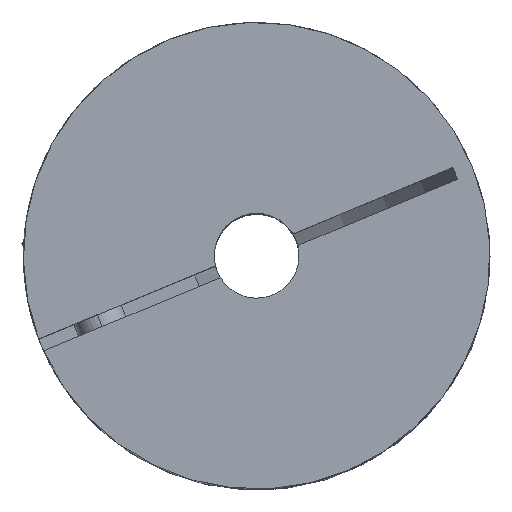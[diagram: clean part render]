
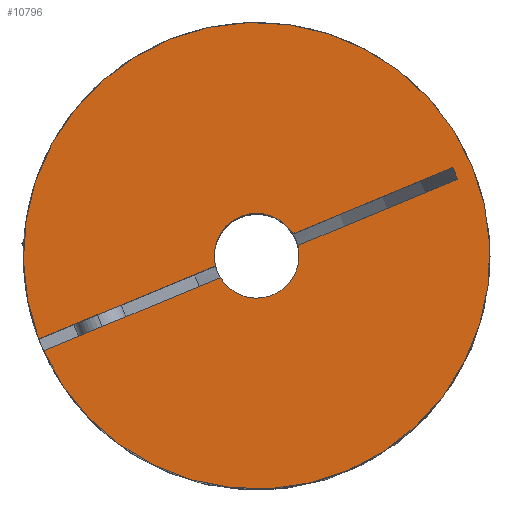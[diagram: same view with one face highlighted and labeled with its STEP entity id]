
A CAD part, top view. The second image highlights one B-rep face of the part: STEP entity #10796.
In plain terms, the highlighted planar face has unit normal (0, 0, 1).
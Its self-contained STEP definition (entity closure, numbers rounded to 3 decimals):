
#84 = CARTESIAN_POINT ( 'NONE',  ( 43.791, 52.683, 118.66 ) ) ;
#229 = DIRECTION ( 'NONE',  ( 0.924, 0.383, 0. ) ) ;
#254 = EDGE_CURVE ( 'NONE', #10160, #9708, #286, .T. ) ;
#286 = LINE ( 'NONE', #6206, #2314 ) ;
#345 = DIRECTION ( 'NONE',  ( 0., 0., -1. ) ) ;
#382 = DIRECTION ( 'NONE',  ( -0.924, -0.383, 0. ) ) ;
#570 = CIRCLE ( 'NONE', #2437, 27.5 ) ;
#643 = VERTEX_POINT ( 'NONE', #4384 ) ;
#688 = ORIENTED_EDGE ( 'NONE', *, *, #3800, .T. ) ;
#784 = AXIS2_PLACEMENT_3D ( 'NONE', #9615, #4350, #10478 ) ;
#965 = DIRECTION ( 'NONE',  ( -0.924, -0.383, 0. ) ) ;
#1015 = EDGE_CURVE ( 'NONE', #5916, #9236, #570, .T. ) ;
#1019 = CARTESIAN_POINT ( 'NONE',  ( 69.198, 63.207, 118.66 ) ) ;
#1269 = EDGE_LOOP ( 'NONE', ( #3670, #8628, #3676, #6337, #4506, #688, #3540, #4663, #1778 ) ) ;
#1384 = LINE ( 'NONE', #1609, #3720 ) ;
#1609 = CARTESIAN_POINT ( 'NONE',  ( 43.504, 53.376, 118.66 ) ) ;
#1778 = ORIENTED_EDGE ( 'NONE', *, *, #6546, .T. ) ;
#2261 = EDGE_CURVE ( 'NONE', #10856, #643, #6480, .T. ) ;
#2314 = VECTOR ( 'NONE', #4790, 1000. ) ;
#2437 = AXIS2_PLACEMENT_3D ( 'NONE', #10891, #345, #382 ) ;
#2488 = LINE ( 'NONE', #5639, #4562 ) ;
#3294 = EDGE_CURVE ( 'NONE', #10337, #9708, #7201, .T. ) ;
#3352 = CIRCLE ( 'NONE', #9830, 27.5 ) ;
#3536 = EDGE_CURVE ( 'NONE', #9463, #8814, #2488, .T. ) ;
#3540 = ORIENTED_EDGE ( 'NONE', *, *, #254, .T. ) ;
#3670 = ORIENTED_EDGE ( 'NONE', *, *, #3536, .F. ) ;
#3676 = ORIENTED_EDGE ( 'NONE', *, *, #1015, .F. ) ;
#3720 = VECTOR ( 'NONE', #6890, 1000. ) ;
#3753 = AXIS2_PLACEMENT_3D ( 'NONE', #84, #6250, #965 ) ;
#3800 = EDGE_CURVE ( 'NONE', #643, #10160, #1384, .T. ) ;
#3975 = FACE_OUTER_BOUND ( 'NONE', #1269, .T. ) ;
#4318 = CARTESIAN_POINT ( 'NONE',  ( 43.791, 52.683, 118.66 ) ) ;
#4350 = DIRECTION ( 'NONE',  ( 0., 0., -1. ) ) ;
#4384 = CARTESIAN_POINT ( 'NONE',  ( 48.071, 55.267, 118.66 ) ) ;
#4496 = CARTESIAN_POINT ( 'NONE',  ( 43.504, 53.376, 118.66 ) ) ;
#4506 = ORIENTED_EDGE ( 'NONE', *, *, #2261, .T. ) ;
#4562 = VECTOR ( 'NONE', #4779, 1000. ) ;
#4582 = CARTESIAN_POINT ( 'NONE',  ( 43.791, 52.683, 118.66 ) ) ;
#4622 = CARTESIAN_POINT ( 'NONE',  ( 38.937, 51.484, 118.66 ) ) ;
#4663 = ORIENTED_EDGE ( 'NONE', *, *, #3294, .F. ) ;
#4779 = DIRECTION ( 'NONE',  ( 0.924, 0.383, 0. ) ) ;
#4790 = DIRECTION ( 'NONE',  ( 0.383, -0.924, 0. ) ) ;
#4821 = VECTOR ( 'NONE', #229, 1000. ) ;
#5216 = DIRECTION ( 'NONE',  ( -0.924, -0.383, 0. ) ) ;
#5359 = PLANE ( 'NONE',  #5608 ) ;
#5406 = DIRECTION ( 'NONE',  ( 0.924, 0.383, 0. ) ) ;
#5441 = CARTESIAN_POINT ( 'NONE',  ( 18.107, 42.856, 118.66 ) ) ;
#5478 = DIRECTION ( 'NONE',  ( -0.924, -0.383, 0. ) ) ;
#5582 = CARTESIAN_POINT ( 'NONE',  ( 39.511, 50.098, 118.66 ) ) ;
#5608 = AXIS2_PLACEMENT_3D ( 'NONE', #4582, #10697, #5478 ) ;
#5639 = CARTESIAN_POINT ( 'NONE',  ( 44.078, 51.99, 118.66 ) ) ;
#5864 = EDGE_CURVE ( 'NONE', #5916, #10856, #8851, .T. ) ;
#5916 = VERTEX_POINT ( 'NONE', #5441 ) ;
#6206 = CARTESIAN_POINT ( 'NONE',  ( 67.492, 61.688, 118.66 ) ) ;
#6250 = DIRECTION ( 'NONE',  ( 0., 0., -1. ) ) ;
#6337 = ORIENTED_EDGE ( 'NONE', *, *, #5864, .T. ) ;
#6480 = CIRCLE ( 'NONE', #784, 5. ) ;
#6546 = EDGE_CURVE ( 'NONE', #10337, #8814, #8882, .T. ) ;
#6890 = DIRECTION ( 'NONE',  ( 0.924, 0.383, 0. ) ) ;
#7193 = CARTESIAN_POINT ( 'NONE',  ( 44.078, 51.99, 118.66 ) ) ;
#7201 = LINE ( 'NONE', #7193, #4821 ) ;
#7843 = CARTESIAN_POINT ( 'NONE',  ( 48.645, 53.882, 118.66 ) ) ;
#8337 = VECTOR ( 'NONE', #5406, 1000. ) ;
#8357 = CARTESIAN_POINT ( 'NONE',  ( 18.681, 41.47, 118.66 ) ) ;
#8628 = ORIENTED_EDGE ( 'NONE', *, *, #9063, .F. ) ;
#8814 = VERTEX_POINT ( 'NONE', #5582 ) ;
#8851 = LINE ( 'NONE', #4496, #8337 ) ;
#8882 = CIRCLE ( 'NONE', #3753, 5. ) ;
#9063 = EDGE_CURVE ( 'NONE', #9236, #9463, #3352, .T. ) ;
#9236 = VERTEX_POINT ( 'NONE', #1019 ) ;
#9256 = CARTESIAN_POINT ( 'NONE',  ( 66.918, 63.074, 118.66 ) ) ;
#9463 = VERTEX_POINT ( 'NONE', #8357 ) ;
#9615 = CARTESIAN_POINT ( 'NONE',  ( 43.791, 52.683, 118.66 ) ) ;
#9708 = VERTEX_POINT ( 'NONE', #10307 ) ;
#9830 = AXIS2_PLACEMENT_3D ( 'NONE', #4318, #10453, #5216 ) ;
#10160 = VERTEX_POINT ( 'NONE', #9256 ) ;
#10307 = CARTESIAN_POINT ( 'NONE',  ( 67.492, 61.688, 118.66 ) ) ;
#10337 = VERTEX_POINT ( 'NONE', #7843 ) ;
#10453 = DIRECTION ( 'NONE',  ( 0., 0., -1. ) ) ;
#10478 = DIRECTION ( 'NONE',  ( -0.924, -0.383, 0. ) ) ;
#10697 = DIRECTION ( 'NONE',  ( 0., 0., -1. ) ) ;
#10796 = ADVANCED_FACE ( 'NONE', ( #3975 ), #5359, .F. ) ;
#10856 = VERTEX_POINT ( 'NONE', #4622 ) ;
#10891 = CARTESIAN_POINT ( 'NONE',  ( 43.791, 52.683, 118.66 ) ) ;
